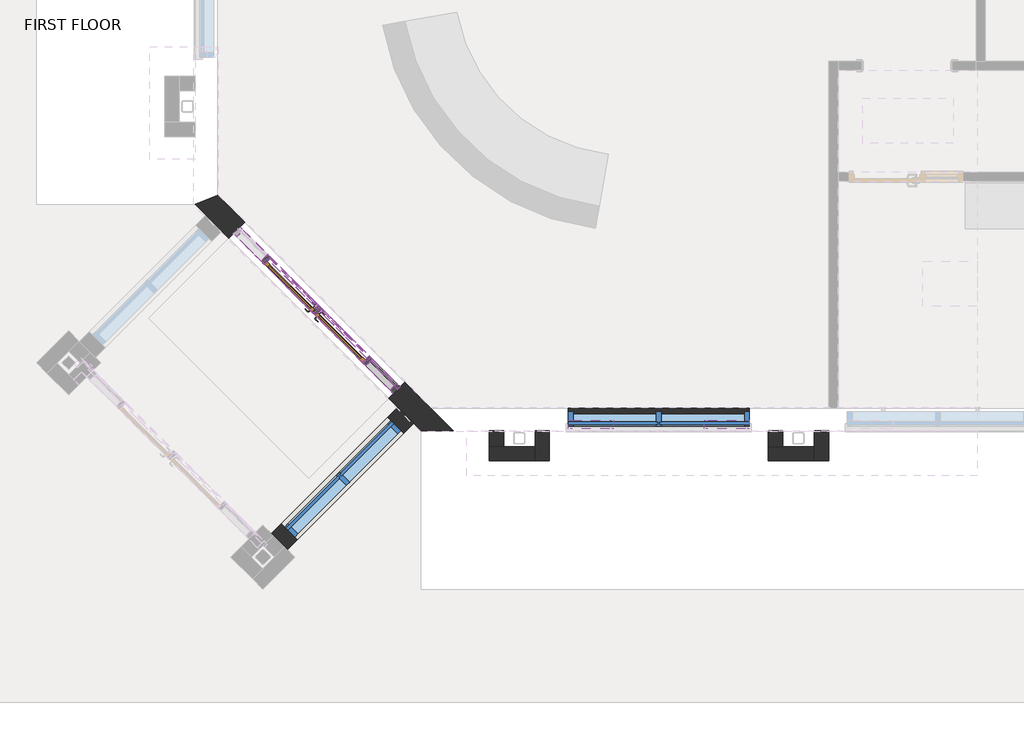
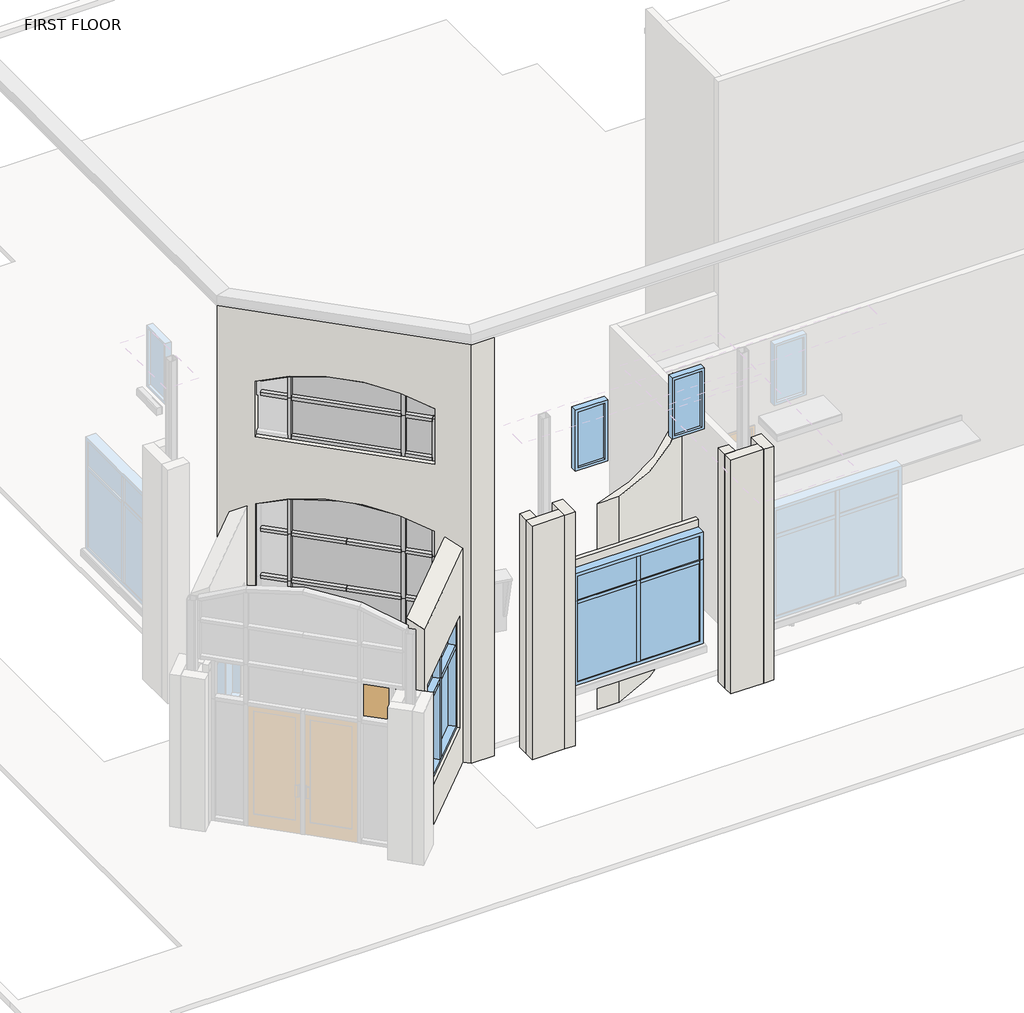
# One storey, part 2 of 7: 43 members, 11 plates, 10 walls, 4 windows, 2 doors.
"""IFC4 building model written with IfcOpenShell, lengths in millimetres."""

from ifc_helpers import new_model, si_unit, point, frame, frame_2d, origin, place, context, project, spatial, polyline, circle_curve, trimmed, segment, composite_curve, outline, extrude, faceted_brep, transform, mapped, element, save
from ifc_brep_helpers import plane_surface, cylinder_surface, revolved_surface, advanced_brep
from components import curtain_wall_store_front_single_med_stile_store_front_single_c6cdc8f1, curtain_wall_store_front_single_med_stile_store_front_single_1d4f68a2, member_1df11e17, member_33497832, member_f0fea5a5, member_5535eeb3, member_57980dff, member_ee409385, member_c7d2ba5d, member_96cc7568, member_ca079636, member_623bfa76, member_6e56d3c6, member_7b70a9c6, member_9ba9524c, member_016b66e3, member_fa7abc04, member_44ea0774, member_e557a406, member_f133ae23, member_3a04f99e, member_58a4a87b, member_93b63755, member_058a004c, member_fd47e183, member_da3023d3, member_091e92f8, member_4be7d09b, system_panel_glazed_7ef526e5, system_panel_glazed_cf9f2373, system_panel_glazed_ee5f99dd, system_panel_glazed_625fda9a, system_panel_glazed_8e084865, system_panel_glazed_9944f469, system_panel_glazed_894d5202, system_panel_glazed_82fe0f80, system_panel_glazed_30649ce8, system_panel_glazed_3c5eea1a, system_panel_glazed_65f6affc, aluminum_exterior_window_single_3885_e2dbf674, storefront_window_28fc684a, window_5003604b

model = new_model("IFC4")

# Units and contexts
model_context = context("Model", 3, world=origin())
ifc_project = project(units=[si_unit("LENGTHUNIT", "METRE", prefix="MILLI")], contexts=[model_context])

# Site, building, storey
site = spatial("IfcSite", under=ifc_project)
building = spatial("IfcBuilding", under=site)
storey = spatial("IfcBuildingStorey", under=building, Name="FIRST FLOOR", Elevation=30480.0)

# Doors
placement = place(None, origin())
curtain_wall_store_front_single_med_stile_store_front_single_shape = curtain_wall_store_front_single_med_stile_store_front_single_c6cdc8f1(model_context)
element("IfcDoor", 1, ObjectType="Curtain Wall-Store Front-Single Med Stile : Store Front Single Door", at=placement, inside=storey, context=model_context, shape_type="MappedRepresentation", body=[
    mapped(curtain_wall_store_front_single_med_stile_store_front_single_shape, transform((-14843.33754, -4975.3705256, 30480.0), x_axis=(0.707106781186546, -0.7071067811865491, 0.0), y_axis=(0.7071067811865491, 0.707106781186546, 0.0), z_axis=(0.0, 0.0, 1.0))),
])
curtain_wall_store_front_single_med_stile_store_front_single_2_shape = curtain_wall_store_front_single_med_stile_store_front_single_1d4f68a2(model_context)
element("IfcDoor", 2, ObjectType="Curtain Wall-Store Front-Single Med Stile : Store Front Single Door", at=placement, inside=storey, context=model_context, shape_type="MappedRepresentation", body=[
    mapped(curtain_wall_store_front_single_med_stile_store_front_single_2_shape, transform((-15525.8370052, -4292.8710604, 30480.0), x_axis=(-0.707106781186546, 0.7071067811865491, 0.0), y_axis=(-0.7071067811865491, -0.707106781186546, 0.0), z_axis=(0.0, 0.0, 1.0))),
])

# Members
member_shape = member_1df11e17(model_context)
element("IfcMember", 3, ObjectType="Rectangular Mullion : 2.5\" x 5\" rectangular", at=placement, inside=storey, context=model_context, shape_type="MappedRepresentation", body=[
    mapped(member_shape, transform((-15889.5373781, -3929.1706875, 32918.4), x_axis=(0.0, 0.0, 1.0), y_axis=(-0.707106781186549, -0.7071067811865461, 0.0), z_axis=(0.707106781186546, -0.7071067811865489, 0.0))),
])
element("IfcMember", 4, ObjectType="Rectangular Mullion : 2.5\" x 5\" rectangular", at=placement, inside=storey, context=model_context, shape_type="MappedRepresentation", body=[
    mapped(member_shape, transform((-14151.8578187, -5666.8502469, 32918.4), x_axis=(0.0, 0.0, 1.0), y_axis=(-0.7071067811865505, -0.7071067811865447, 0.0), z_axis=(0.7071067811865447, -0.7071067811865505, 0.0))),
])
element("IfcMember", 5, ObjectType="Rectangular Mullion : 2.5\" x 5\" rectangular", at=placement, inside=storey, context=model_context, shape_type="MappedRepresentation", body=[
    mapped(member_shape, transform((-14151.8578187, -5666.8502469, 34442.4), x_axis=(0.0, 0.0, 1.0), y_axis=(-0.7071067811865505, -0.7071067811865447, 0.0), z_axis=(0.7071067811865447, -0.7071067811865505, 0.0))),
])
element("IfcMember", 6, ObjectType="Rectangular Mullion : 2.5\" x 5\" rectangular", at=placement, inside=storey, context=model_context, shape_type="MappedRepresentation", body=[
    mapped(member_shape, transform((-15889.5373781, -3929.1706875, 34442.4), x_axis=(0.0, 0.0, 1.0), y_axis=(-0.70710678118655, -0.7071067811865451, 0.0), z_axis=(0.7071067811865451, -0.70710678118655, 0.0))),
])
element("IfcMember", 7, ObjectType="Rectangular Mullion : 2.5\" x 5\" rectangular", at=placement, inside=storey, context=model_context, shape_type="MappedRepresentation", body=[
    mapped(member_shape, transform((-14151.8578187, -5666.8502469, 33502.6), x_axis=(0.0, 0.0, 1.0), y_axis=(-0.7071067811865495, -0.7071067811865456, 0.0), z_axis=(0.7071067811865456, -0.7071067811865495, 0.0))),
])
element("IfcMember", 8, ObjectType="Rectangular Mullion : 2.5\" x 5\" rectangular", at=placement, inside=storey, context=model_context, shape_type="MappedRepresentation", body=[
    mapped(member_shape, transform((-15889.5373781, -3929.1706875, 33502.6), x_axis=(0.0, 0.0, 1.0), y_axis=(-0.707106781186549, -0.7071067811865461, 0.0), z_axis=(0.7071067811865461, -0.707106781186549, 0.0))),
])
element("IfcMember", 9, ObjectType="Rectangular Mullion : 2.5\" x 5\" rectangular", at=placement, inside=storey, context=model_context, shape_type="MappedRepresentation", body=[
    mapped(member_shape, transform((-14151.8578187, -5666.8502469, 37160.2), x_axis=(0.0, 0.0, 1.0), y_axis=(-0.7071067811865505, -0.7071067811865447, 0.0), z_axis=(0.7071067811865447, -0.7071067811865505, 0.0))),
])
element("IfcMember", 10, ObjectType="Rectangular Mullion : 2.5\" x 5\" rectangular", at=placement, inside=storey, context=model_context, shape_type="MappedRepresentation", body=[
    mapped(member_shape, transform((-15889.5373781, -3929.1706875, 37160.2), x_axis=(0.0, 0.0, 1.0), y_axis=(-0.7071067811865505, -0.7071067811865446, 0.0), z_axis=(0.7071067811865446, -0.7071067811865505, 0.0))),
])
member_2_shape = member_33497832(model_context)
element("IfcMember", 11, ObjectType="Rectangular Mullion : 2.5\" x 5\" rectangular", at=placement, inside=storey, context=model_context, shape_type="MappedRepresentation", body=[
    mapped(member_2_shape, transform((-15207.0379129, -4611.6701527, 32918.4), x_axis=(0.0, 0.0, 1.0), y_axis=(-0.7071067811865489, -0.7071067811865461, 0.0), z_axis=(0.7071067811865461, -0.7071067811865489, 0.0))),
])
element("IfcMember", 12, ObjectType="Rectangular Mullion : 2.5\" x 5\" rectangular", at=placement, inside=storey, context=model_context, shape_type="MappedRepresentation", body=[
    mapped(member_2_shape, transform((-14524.5384477, -5294.1696179, 32918.4), x_axis=(0.0, 0.0, 1.0), y_axis=(-0.7071067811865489, -0.7071067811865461, 0.0), z_axis=(0.7071067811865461, -0.7071067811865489, 0.0))),
])
member_3_shape = member_f0fea5a5(model_context)
element("IfcMember", 13, ObjectType="Rectangular Mullion : 2.5\" x 5\" rectangular", at=placement, inside=storey, context=model_context, shape_type="MappedRepresentation", body=[
    mapped(member_3_shape, transform((-14502.0878074, -5316.6202582, 30480.0), x_axis=(0.707106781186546, -0.7071067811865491, 0.0), y_axis=(-0.7071067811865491, -0.707106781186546, 0.0), z_axis=(0.0, 0.0, -1.0))),
])
element("IfcMember", 14, ObjectType="Rectangular Mullion : 2.5\" x 5\" rectangular", at=placement, inside=storey, context=model_context, shape_type="MappedRepresentation", body=[
    mapped(member_3_shape, transform((-15867.0867378, -3951.6213278, 30480.0), x_axis=(0.707106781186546, -0.7071067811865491, 0.0), y_axis=(-0.7071067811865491, -0.707106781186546, 0.0), z_axis=(0.0, 0.0, -1.0))),
])
member_4_shape = member_5535eeb3(model_context)
element("IfcMember", 15, ObjectType="Rectangular Mullion : 2.5\" x 5\" rectangular", at=placement, inside=storey, context=model_context, shape_type="MappedRepresentation", body=[
    mapped(member_4_shape, transform((-14479.6371671, -5339.0708985, 30480.0), x_axis=(0.0, 0.0, -1.0), y_axis=(-0.7071067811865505, -0.7071067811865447, 0.0), z_axis=(-0.7071067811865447, 0.7071067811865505, 0.0))),
])
element("IfcMember", 16, ObjectType="Rectangular Mullion : 2.5\" x 5\" rectangular", at=placement, inside=storey, context=model_context, shape_type="MappedRepresentation", body=[
    mapped(member_4_shape, transform((-14479.6371671, -5339.0708985, 36347.4), x_axis=(0.0, 0.0, -1.0), y_axis=(-0.7071067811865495, -0.7071067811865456, 0.0), z_axis=(-0.7071067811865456, 0.7071067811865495, 0.0))),
])
member_5_shape = member_57980dff(model_context)
element("IfcMember", 17, ObjectType="Rectangular Mullion : 2.5\" x 5\" rectangular", at=placement, inside=storey, context=model_context, shape_type="MappedRepresentation", body=[
    mapped(member_5_shape, transform((-15184.5872726, -4634.120793, 30480.0), x_axis=(0.707106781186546, -0.7071067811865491, 0.0), y_axis=(-0.7071067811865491, -0.707106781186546, 0.0), z_axis=(0.0, 0.0, -1.0))),
])
member_6_shape = member_ee409385(model_context)
element("IfcMember", 18, ObjectType="Rectangular Mullion : 2.5\" x 5\" rectangular", at=placement, inside=storey, context=model_context, shape_type="MappedRepresentation", body=[
    mapped(member_6_shape, transform((-14106.9565381, -5711.7515275, 30480.0), x_axis=(0.707106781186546, -0.7071067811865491, 0.0), y_axis=(-0.7071067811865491, -0.707106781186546, 0.0), z_axis=(0.0, 0.0, -1.0))),
])
member_7_shape = member_c7d2ba5d(model_context)
element("IfcMember", 19, ObjectType="Rectangular Mullion : 2.5\" x 5\" rectangular", at=placement, inside=storey, context=model_context, shape_type="MappedRepresentation", body=[
    mapped(member_7_shape, transform((-15184.5872726, -4634.120793, 34442.4), x_axis=(0.0, 0.0, 1.0), y_axis=(-0.7071067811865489, -0.7071067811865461, 0.0), z_axis=(0.7071067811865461, -0.7071067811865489, 0.0))),
])
element("IfcMember", 20, ObjectType="Rectangular Mullion : 2.5\" x 5\" rectangular", at=placement, inside=storey, context=model_context, shape_type="MappedRepresentation", body=[
    mapped(member_7_shape, transform((-15184.5872726, -4634.120793, 33502.6), x_axis=(0.0, 0.0, 1.0), y_axis=(-0.7071067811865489, -0.7071067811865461, 0.0), z_axis=(0.7071067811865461, -0.7071067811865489, 0.0))),
])
element("IfcMember", 21, ObjectType="Rectangular Mullion : 2.5\" x 5\" rectangular", at=placement, inside=storey, context=model_context, shape_type="MappedRepresentation", body=[
    mapped(member_7_shape, transform((-14524.5384477, -5294.1696179, 34442.4), x_axis=(0.0, 0.0, 1.0), y_axis=(-0.7071067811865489, -0.7071067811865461, 0.0), z_axis=(0.7071067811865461, -0.7071067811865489, 0.0))),
])
element("IfcMember", 22, ObjectType="Rectangular Mullion : 2.5\" x 5\" rectangular", at=placement, inside=storey, context=model_context, shape_type="MappedRepresentation", body=[
    mapped(member_7_shape, transform((-14524.5384477, -5294.1696179, 33502.6), x_axis=(0.0, 0.0, 1.0), y_axis=(-0.7071067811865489, -0.7071067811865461, 0.0), z_axis=(0.7071067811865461, -0.7071067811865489, 0.0))),
])
member_8_shape = member_96cc7568(model_context)
element("IfcMember", 23, ObjectType="Rectangular Mullion : 2.5\" x 5\" rectangular", at=placement, inside=storey, context=model_context, shape_type="MappedRepresentation", body=[
    mapped(member_8_shape, transform((-14502.0878074, -5316.6202582, 32918.4), x_axis=(0.707106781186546, -0.7071067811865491, 0.0), y_axis=(-0.7071067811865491, -0.707106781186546, 0.0), z_axis=(0.0, 0.0, -1.0))),
])
element("IfcMember", 24, ObjectType="Rectangular Mullion : 2.5\" x 5\" rectangular", at=placement, inside=storey, context=model_context, shape_type="MappedRepresentation", body=[
    mapped(member_8_shape, transform((-15867.0867378, -3951.6213278, 32918.4), x_axis=(0.707106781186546, -0.7071067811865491, 0.0), y_axis=(-0.7071067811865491, -0.707106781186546, 0.0), z_axis=(0.0, 0.0, -1.0))),
])
member_9_shape = member_ca079636(model_context)
element("IfcMember", 25, ObjectType="Rectangular Mullion : 2.5\" x 5\" rectangular", at=placement, inside=storey, context=model_context, shape_type="MappedRepresentation", body=[
    mapped(member_9_shape, transform((-14502.0878074, -5316.6202582, 33502.6), x_axis=(0.707106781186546, -0.7071067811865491, 0.0), y_axis=(-0.7071067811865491, -0.707106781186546, 0.0), z_axis=(0.0, 0.0, -1.0))),
])
element("IfcMember", 26, ObjectType="Rectangular Mullion : 2.5\" x 5\" rectangular", at=placement, inside=storey, context=model_context, shape_type="MappedRepresentation", body=[
    mapped(member_9_shape, transform((-15867.0867378, -3951.6213278, 33502.6), x_axis=(0.707106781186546, -0.7071067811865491, 0.0), y_axis=(-0.7071067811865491, -0.707106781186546, 0.0), z_axis=(0.0, 0.0, -1.0))),
])
member_10_shape = member_623bfa76(model_context)
element("IfcMember", 27, ObjectType="Rectangular Mullion : 2.5\" x 5\" rectangular", at=placement, inside=storey, context=model_context, shape_type="MappedRepresentation", body=[
    mapped(member_10_shape, transform((-14106.9565381, -5711.7515275, 32918.4), x_axis=(0.707106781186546, -0.7071067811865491, 0.0), y_axis=(-0.7071067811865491, -0.707106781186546, 0.0), z_axis=(0.0, 0.0, -1.0))),
])
member_11_shape = member_6e56d3c6(model_context)
element("IfcMember", 28, ObjectType="Rectangular Mullion : 2.5\" x 5\" rectangular", at=placement, inside=storey, context=model_context, shape_type="MappedRepresentation", body=[
    mapped(member_11_shape, transform((-14502.0878074, -5316.6202582, 34442.4), x_axis=(0.707106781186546, -0.7071067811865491, 0.0), y_axis=(-0.7071067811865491, -0.707106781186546, 0.0), z_axis=(0.0, 0.0, -1.0))),
])
member_12_shape = member_7b70a9c6(model_context)
element("IfcMember", 29, ObjectType="Rectangular Mullion : 2.5\" x 5\" rectangular", at=placement, inside=storey, context=model_context, shape_type="MappedRepresentation", body=[
    mapped(member_12_shape, transform((-15867.0867378, -3951.6213278, 34442.4), x_axis=(0.707106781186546, -0.7071067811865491, 0.0), y_axis=(-0.7071067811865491, -0.707106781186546, 0.0), z_axis=(0.0, 0.0, -1.0))),
])
member_13_shape = member_9ba9524c(model_context)
element("IfcMember", 30, ObjectType="Rectangular Mullion : 2.5\" x 5\" rectangular", at=placement, inside=storey, context=model_context, shape_type="MappedRepresentation", body=[
    mapped(member_13_shape, transform((-15184.5872726, -4634.120793, 35335.2420044), x_axis=(-0.0008797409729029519, 0.0008797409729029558, 0.9999992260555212), y_axis=(-0.7071067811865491, -0.7071067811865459, 0.0), z_axis=(0.7071062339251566, -0.7071062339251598, 0.0012441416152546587))),
])
member_14_shape = member_016b66e3(model_context)
element("IfcMember", 31, ObjectType="Rectangular Mullion : 2.5\" x 5\" rectangular", at=placement, inside=storey, context=model_context, shape_type="MappedRepresentation", body=[
    mapped(member_14_shape, transform((-15867.0867378, -3951.6213278, 35206.676796), x_axis=(-0.18424092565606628, 0.1842409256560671, 0.9654587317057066), y_axis=(-0.7071067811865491, -0.707106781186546, 0.0), z_axis=(0.6826824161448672, -0.6826824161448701, 0.2605560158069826))),
])
member_15_shape = member_fa7abc04(model_context)
element("IfcMember", 32, ObjectType="Rectangular Mullion : 2.5\" x 5\" rectangular", at=placement, inside=storey, context=model_context, shape_type="MappedRepresentation", body=[
    mapped(member_15_shape, transform((-14502.0878074, -5316.6202582, 35209.163552), x_axis=(0.1824814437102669, -0.1824814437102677, 0.9661268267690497), y_axis=(-0.7071067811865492, -0.707106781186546, 0.0), z_axis=(0.6831548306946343, -0.6831548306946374, -0.2580677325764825))),
])
member_16_shape = member_44ea0774(model_context)
element("IfcMember", 33, ObjectType="Rectangular Mullion : 2.5\" x 5\" rectangular", at=placement, inside=storey, context=model_context, shape_type="MappedRepresentation", body=[
    mapped(member_16_shape, transform((-14106.9565381, -5711.7515275, 35011.0242412), x_axis=(0.2886379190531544, -0.28863791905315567, 0.9128944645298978), y_axis=(-0.7071067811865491, -0.707106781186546, 0.0), z_axis=(0.6455138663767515, -0.6455138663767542, -0.4081956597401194))),
])
member_17_shape = member_e557a406(model_context)
element("IfcMember", 34, ObjectType="Rectangular Mullion : 2.5\" x 5\" rectangular", at=placement, inside=storey, context=model_context, shape_type="MappedRepresentation", body=[
    mapped(member_17_shape, transform((-14106.9565381, -5711.7515275, 33502.6), x_axis=(0.707106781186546, -0.7071067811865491, 0.0), y_axis=(-0.7071067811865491, -0.707106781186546, 0.0), z_axis=(0.0, 0.0, -1.0))),
])
member_18_shape = member_f133ae23(model_context)
element("IfcMember", 35, ObjectType="Rectangular Mullion : 2.5\" x 5\" rectangular", at=placement, inside=storey, context=model_context, shape_type="MappedRepresentation", body=[
    mapped(member_18_shape, transform((-14106.9565381, -5711.7515275, 34442.4), x_axis=(0.707106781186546, -0.7071067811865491, 0.0), y_axis=(-0.7071067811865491, -0.707106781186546, 0.0), z_axis=(0.0, 0.0, -1.0))),
])
member_19_shape = member_3a04f99e(model_context)
element("IfcMember", 36, ObjectType="Rectangular Mullion : 2.5\" x 5\" rectangular", at=placement, inside=storey, context=model_context, shape_type="MappedRepresentation", body=[
    mapped(member_19_shape, transform((-15844.6360975, -3974.0719681, 36347.4), x_axis=(0.0, 0.0, -1.0), y_axis=(-0.7071067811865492, -0.7071067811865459, 0.0), z_axis=(-0.7071067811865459, 0.7071067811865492, 0.0))),
])
member_20_shape = member_58a4a87b(model_context)
element("IfcMember", 37, ObjectType="Rectangular Mullion : 2.5\" x 5\" rectangular", at=placement, inside=storey, context=model_context, shape_type="MappedRepresentation", body=[
    mapped(member_20_shape, transform((-15867.0867378, -3951.6213278, 36347.4), x_axis=(0.7071067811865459, -0.7071067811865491, 0.0), y_axis=(-0.7071067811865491, -0.7071067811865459, 0.0), z_axis=(0.0, 0.0, -1.0))),
])
element("IfcMember", 38, ObjectType="Rectangular Mullion : 2.5\" x 5\" rectangular", at=placement, inside=storey, context=model_context, shape_type="MappedRepresentation", body=[
    mapped(member_20_shape, transform((-14502.0878074, -5316.6202582, 36347.4), x_axis=(0.7071067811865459, -0.7071067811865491, 0.0), y_axis=(-0.7071067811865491, -0.7071067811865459, 0.0), z_axis=(0.0, 0.0, -1.0))),
])
member_21_shape = member_93b63755(model_context)
element("IfcMember", 39, ObjectType="Rectangular Mullion : 2.5\" x 5\" rectangular", at=placement, inside=storey, context=model_context, shape_type="MappedRepresentation", body=[
    mapped(member_21_shape, transform((-15867.0867378, -3951.6213278, 37160.2), x_axis=(0.7071067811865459, -0.7071067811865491, 0.0), y_axis=(-0.7071067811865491, -0.7071067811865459, 0.0), z_axis=(0.0, 0.0, -1.0))),
])
member_22_shape = member_058a004c(model_context)
element("IfcMember", 40, ObjectType="Rectangular Mullion : 2.5\" x 5\" rectangular", at=placement, inside=storey, context=model_context, shape_type="MappedRepresentation", body=[
    mapped(member_22_shape, transform((-14502.0878074, -5316.6202582, 37160.2), x_axis=(0.7071067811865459, -0.7071067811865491, 0.0), y_axis=(-0.7071067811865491, -0.7071067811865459, 0.0), z_axis=(0.0, 0.0, -1.0))),
])
member_23_shape = member_fd47e183(model_context)
element("IfcMember", 41, ObjectType="Rectangular Mullion : 2.5\" x 5\" rectangular", at=placement, inside=storey, context=model_context, shape_type="MappedRepresentation", body=[
    mapped(member_23_shape, transform((-14524.5384477, -5294.1696179, 37160.2), x_axis=(0.0, 0.0, 1.0), y_axis=(-0.7071067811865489, -0.7071067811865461, 0.0), z_axis=(0.7071067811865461, -0.7071067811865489, 0.0))),
])
member_24_shape = member_da3023d3(model_context)
element("IfcMember", 42, ObjectType="Rectangular Mullion : 2.5\" x 5\" rectangular", at=placement, inside=storey, context=model_context, shape_type="MappedRepresentation", body=[
    mapped(member_24_shape, transform((-14106.9565381, -5711.7515275, 37458.6082327), x_axis=(0.28863791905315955, -0.2886379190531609, 0.9128944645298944), y_axis=(-0.7071067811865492, -0.7071067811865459, 0.0), z_axis=(0.6455138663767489, -0.645513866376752, -0.4081956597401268))),
])
member_25_shape = member_091e92f8(model_context)
element("IfcMember", 43, ObjectType="Rectangular Mullion : 2.5\" x 5\" rectangular", at=placement, inside=storey, context=model_context, shape_type="MappedRepresentation", body=[
    mapped(member_25_shape, transform((-14106.9565381, -5711.7515275, 36347.4), x_axis=(0.7071067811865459, -0.7071067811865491, 0.0), y_axis=(-0.7071067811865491, -0.7071067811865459, 0.0), z_axis=(0.0, 0.0, -1.0))),
])
element("IfcMember", 44, ObjectType="Rectangular Mullion : 2.5\" x 5\" rectangular", at=placement, inside=storey, context=model_context, shape_type="MappedRepresentation", body=[
    mapped(member_14_shape, transform((-15867.0867378, -3951.6213278, 37654.2607875), x_axis=(-0.18424092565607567, 0.18424092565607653, 0.9654587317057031), y_axis=(-0.7071067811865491, -0.7071067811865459, 0.0), z_axis=(0.6826824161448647, -0.6826824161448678, 0.26055601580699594))),
])
member_26_shape = member_4be7d09b(model_context)
element("IfcMember", 45, ObjectType="Rectangular Mullion : 2.5\" x 5\" rectangular", at=placement, inside=storey, context=model_context, shape_type="MappedRepresentation", body=[
    mapped(member_26_shape, transform((-14502.0878074, -5316.6202582, 37656.7475435), x_axis=(0.1824814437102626, -0.18248144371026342, 0.9661268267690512), y_axis=(-0.707106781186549, -0.7071067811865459, 0.0), z_axis=(0.6831548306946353, -0.6831548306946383, -0.2580677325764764))),
])

# Plates
system_panel_glazed_shape = system_panel_glazed_7ef526e5(model_context)
element("IfcPlate", 46, ObjectType="System Panel : Glazed", at=placement, inside=storey, context=model_context, shape_type="MappedRepresentation", body=[
    mapped(system_panel_glazed_shape, transform((-14315.7474929, -5502.9605727, 30543.5), x_axis=(0.707106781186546, -0.7071067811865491, 0.0), y_axis=(0.7071067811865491, 0.707106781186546, 0.0), z_axis=(0.0, 0.0, 1.0))),
])
system_panel_glazed_2_shape = system_panel_glazed_cf9f2373(model_context)
element("IfcPlate", 47, ObjectType="System Panel : Glazed", at=placement, inside=storey, context=model_context, shape_type="MappedRepresentation", body=[
    mapped(system_panel_glazed_2_shape, transform((-14315.7474929, -5502.9605727, 32950.15), x_axis=(0.707106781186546, -0.7071067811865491, 0.0), y_axis=(0.7071067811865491, 0.707106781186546, 0.0), z_axis=(0.0, 0.0, 1.0))),
])
system_panel_glazed_3_shape = system_panel_glazed_ee5f99dd(model_context)
element("IfcPlate", 48, ObjectType="System Panel : Glazed", at=placement, inside=storey, context=model_context, shape_type="MappedRepresentation", body=[
    mapped(system_panel_glazed_3_shape, transform((-15184.5872726, -4634.120793, 32950.15), x_axis=(0.707106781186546, -0.7071067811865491, 0.0), y_axis=(0.7071067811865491, 0.707106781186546, 0.0), z_axis=(0.0, 0.0, 1.0))),
])
system_panel_glazed_4_shape = system_panel_glazed_625fda9a(model_context)
element("IfcPlate", 49, ObjectType="System Panel : Glazed", at=placement, inside=storey, context=model_context, shape_type="MappedRepresentation", body=[
    mapped(system_panel_glazed_4_shape, transform((-14315.7474929, -5502.9605727, 33534.35), x_axis=(0.707106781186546, -0.7071067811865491, 0.0), y_axis=(0.7071067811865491, 0.707106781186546, 0.0), z_axis=(0.0, 0.0, 1.0))),
])
system_panel_glazed_5_shape = system_panel_glazed_8e084865(model_context)
element("IfcPlate", 50, ObjectType="System Panel : Glazed", at=placement, inside=storey, context=model_context, shape_type="MappedRepresentation", body=[
    mapped(system_panel_glazed_5_shape, transform((-15184.5872726, -4634.120793, 33534.35), x_axis=(0.707106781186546, -0.7071067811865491, 0.0), y_axis=(0.7071067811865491, 0.707106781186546, 0.0), z_axis=(0.0, 0.0, 1.0))),
])
system_panel_glazed_6_shape = system_panel_glazed_9944f469(model_context)
element("IfcPlate", 51, ObjectType="System Panel : Glazed", at=placement, inside=storey, context=model_context, shape_type="MappedRepresentation", body=[
    mapped(system_panel_glazed_6_shape, transform((-15184.5872726, -4634.120793, 34474.15), x_axis=(0.707106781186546, -0.7071067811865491, 0.0), y_axis=(0.7071067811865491, 0.707106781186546, 0.0), z_axis=(0.0, 0.0, 1.0))),
])
system_panel_glazed_7_shape = system_panel_glazed_894d5202(model_context)
element("IfcPlate", 52, ObjectType="System Panel : Glazed", at=placement, inside=storey, context=model_context, shape_type="MappedRepresentation", body=[
    mapped(system_panel_glazed_7_shape, transform((-14315.7474929, -5502.9605727, 34474.15), x_axis=(0.707106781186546, -0.7071067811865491, 0.0), y_axis=(0.7071067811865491, 0.707106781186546, 0.0), z_axis=(0.0, 0.0, 1.0))),
])
system_panel_glazed_8_shape = system_panel_glazed_82fe0f80(model_context)
element("IfcPlate", 53, ObjectType="System Panel : Glazed", at=placement, inside=storey, context=model_context, shape_type="MappedRepresentation", body=[
    mapped(system_panel_glazed_8_shape, transform((-14315.7474929, -5502.9605727, 36410.9), x_axis=(0.7071067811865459, -0.7071067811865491, 0.0), y_axis=(0.7071067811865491, 0.7071067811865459, 0.0), z_axis=(0.0, 0.0, 1.0))),
])
system_panel_glazed_9_shape = system_panel_glazed_30649ce8(model_context)
element("IfcPlate", 54, ObjectType="System Panel : Glazed", at=placement, inside=storey, context=model_context, shape_type="MappedRepresentation", body=[
    mapped(system_panel_glazed_9_shape, transform((-15184.5872726, -4634.120793, 36410.9), x_axis=(0.7071067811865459, -0.7071067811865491, 0.0), y_axis=(0.7071067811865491, 0.7071067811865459, 0.0), z_axis=(0.0, 0.0, 1.0))),
])
system_panel_glazed_10_shape = system_panel_glazed_3c5eea1a(model_context)
element("IfcPlate", 55, ObjectType="System Panel : Glazed", at=placement, inside=storey, context=model_context, shape_type="MappedRepresentation", body=[
    mapped(system_panel_glazed_10_shape, transform((-15184.5872726, -4634.120793, 37191.95), x_axis=(0.7071067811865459, -0.7071067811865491, 0.0), y_axis=(0.7071067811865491, 0.7071067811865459, 0.0), z_axis=(0.0, 0.0, 1.0))),
])
system_panel_glazed_11_shape = system_panel_glazed_65f6affc(model_context)
element("IfcPlate", 56, ObjectType="System Panel : Glazed", at=placement, inside=storey, context=model_context, shape_type="MappedRepresentation", body=[
    mapped(system_panel_glazed_11_shape, transform((-14293.2968526, -5525.411213, 37191.95), x_axis=(0.7071067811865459, -0.7071067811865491, 0.0), y_axis=(0.7071067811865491, 0.7071067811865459, 0.0), z_axis=(0.0, 0.0, 1.0))),
])

# Walls
element("IfcWall", 57, ObjectType="Exterior - Brick on Mtl. Stud", at=placement, inside=storey, context=model_context, shape_type="AdvancedBrep", body=[
    advanced_brep(
    [(-16154.4549337, -3448.726985, 30480.0), (-16519.635253, -3083.5466657, 30480.0), (-16519.635253, -3083.5466657, 38890.816921), (-13650.1829592, -5952.9989595, 38890.816921), (-13647.0079592, -5956.1739595, 38899.5401618), (-13647.0079592, -5956.1739595, 39014.4), (-13345.3829592, -6257.7989595, 39014.4), (-13345.3829592, -6257.7989595, 30480.0), (-13999.1934646, -5603.988454, 30480.0), (-13999.1934646, -5603.988454, 35011.0242412), (-16154.4549337, -3448.726985, 35006.8677208), (-16154.4549337, -3448.726985, 37454.4517124), (-16154.4549337, -3448.726985, 36347.4), (-13999.1934646, -5603.988454, 36347.4), (-13999.1934646, -5603.988454, 37458.6082327), (-13776.435253, -6257.7989595, 39014.4), (-16824.435253, -3209.7989595, 39014.4), (-16824.435253, -3209.7989595, 30480.0), (-16680.7511551, -3353.4830574, 30480.0), (-16465.2250082, -3569.0092043, 30480.0), (-16369.9810806, -3664.2531319, 30480.0), (-16369.9810806, -3664.2531319, 35006.8677208), (-14214.7196115, -5819.514601, 35011.0242412), (-14214.7196115, -5819.514601, 30480.0), (-14092.9892813, -5941.2449312, 30480.0), (-13877.4631344, -6156.7710781, 30480.0), (-13776.435253, -6257.7989595, 30480.0), (-16369.9810806, -3664.2531319, 36347.4), (-16369.9810806, -3664.2531319, 37454.4517124), (-14214.7196115, -5819.514601, 37458.6082327), (-14214.7196115, -5819.514601, 36347.4), (-13651.4980873, -5956.1739595, 39014.4), (-16522.810253, -3084.8617937, 39014.4), (-16522.810253, -3084.8617937, 38899.5401618), (-13651.4980873, -5956.1739595, 38899.5401618)],
    [
        (0, 1),
        (1, 2),
        (2, 3),
        (3, 4),
        (4, 5),
        (5, 6),
        (6, 7),
        (7, 8),
        (8, 9),
        (9, 10, circle_curve(frame((-15073.5496635, -4529.6322552, 31613.0859867), z_axis=(-0.7071067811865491, -0.707106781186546, 0.0), x_axis=(-0.707106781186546, 0.7071067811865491, 0.0)), 3722.1588985)),
        (10, 0),
        (11, 12),
        (12, 13),
        (13, 14),
        (14, 11, circle_curve(frame((-15073.5496635, -4529.6322552, 34060.6699782), z_axis=(-0.7071067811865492, -0.7071067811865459, 0.0), x_axis=(-0.7071067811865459, 0.7071067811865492, 0.0)), 3722.1588985)),
        (15, 16),
        (16, 17),
        (17, 18),
        (18, 19),
        (19, 20),
        (20, 21),
        (21, 22, circle_curve(frame((-15289.0758104, -4745.1584021, 31613.0859867), z_axis=(0.7071067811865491, 0.707106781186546, 0.0), x_axis=(-0.707106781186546, 0.7071067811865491, 0.0)), 3722.1588985)),
        (22, 23),
        (23, 24),
        (24, 25),
        (25, 26),
        (26, 15),
        (27, 28),
        (28, 29, circle_curve(frame((-15289.0758104, -4745.1584021, 34060.6699782), z_axis=(0.7071067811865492, 0.7071067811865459, 0.0), x_axis=(-0.7071067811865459, 0.7071067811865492, 0.0)), 3722.1588985)),
        (29, 30),
        (30, 27),
        (17, 1),
        (0, 20),
        (7, 26),
        (23, 8),
        (15, 6),
        (5, 31),
        (31, 32),
        (32, 16),
        (10, 21),
        (22, 9),
        (32, 33),
        (33, 2),
        (27, 12),
        (11, 28),
        (14, 29),
        (13, 30),
        (4, 34),
        (34, 31),
        (3, 34),
        (34, 33),
    ],
    [
        plane_surface(frame((-11763.6128698, -7839.5690489, 30480.0), z_axis=(0.707106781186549, 0.7071067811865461, 0.0), x_axis=(-0.7071067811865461, 0.707106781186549, 0.0))),
        plane_surface(frame((-11979.1390167, -8055.0951958, 30480.0), z_axis=(-0.707106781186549, -0.7071067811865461, 0.0), x_axis=(0.7071067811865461, -0.707106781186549, 0.0))),
        plane_surface(frame((-13605.5460327, -5997.635886, 30480.0), z_axis=(0.0, 0.0, -1.0000000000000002), x_axis=(-0.7071067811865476, -0.7071067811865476, 0.0))),
        plane_surface(frame((-16564.2721796, -3038.9097391, 39014.4), z_axis=(0.0, 0.0, 1.0), x_axis=(-0.7071067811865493, -0.7071067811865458, 0.0))),
        plane_surface(frame((-16046.6918602, -3340.9639115, 30480.0), z_axis=(0.7071067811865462, -0.7071067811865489, 0.0), x_axis=(-0.7071067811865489, -0.7071067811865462, 0.0))),
        plane_surface(frame((-13891.4303912, -5496.2253806, 35011.0242412), z_axis=(-0.7071067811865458, 0.7071067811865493, 0.0), x_axis=(-0.7071067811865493, -0.7071067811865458, 0.0))),
        revolved_surface(polyline([(-17705.513461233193, -1897.6684573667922, 31613.0859867), (-17921.039608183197, -2113.1946043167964, 31613.0859867)]), (-15172.3324808, -4628.4150725, 31613.0859867), (0.7071067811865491, 0.707106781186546, 0.0)),
        plane_surface(frame((-13605.5460327, -6257.7989595, 30480.0), z_axis=(0.0, -1.0, 0.0), x_axis=(1.0, 0.0, 0.0))),
        plane_surface(frame((-16519.635253, -3083.5466657, 30480.0), z_axis=(-0.3826834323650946, 0.9238795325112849, 0.0), x_axis=(-0.9238795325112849, -0.3826834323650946, 0.0))),
        plane_surface(frame((-16046.6918602, -3340.9639115, 36347.4), z_axis=(0.7071067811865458, -0.7071067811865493, 0.0), x_axis=(-0.7071067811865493, -0.7071067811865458, 0.0))),
        revolved_surface(polyline([(-17705.513461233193, -1897.6684573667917, 34060.6699782), (-17921.039608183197, -2113.194604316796, 34060.6699782)]), (-15172.3324808, -4628.4150725, 34060.6699782), (0.7071067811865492, 0.7071067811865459, 0.0)),
        plane_surface(frame((-13891.4303912, -5496.2253806, 37458.6082327), z_axis=(-0.7071067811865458, 0.7071067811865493, 0.0), x_axis=(-0.7071067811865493, -0.7071067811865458, 0.0))),
        plane_surface(frame((-13891.4303912, -5496.2253806, 36347.4), z_axis=(0.0, 0.0, 1.0), x_axis=(-0.7071067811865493, -0.7071067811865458, 0.0))),
        plane_surface(frame((-365.235253, -5956.1739595, 39019.2285111), z_axis=(0.0, 1.0, 0.0), x_axis=(-1.0, 0.0, 0.0))),
        plane_surface(frame((-365.235253, -5956.1739595, 38899.5401618), z_axis=(0.0, 0.9396926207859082, 0.3420201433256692), x_axis=(-1.0, 0.0, 0.0))),
        plane_surface(frame((-13651.4980873, -5956.1739595, 39019.2285111), z_axis=(0.7071067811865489, 0.7071067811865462, 0.0), x_axis=(-0.7071067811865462, 0.7071067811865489, 0.0))),
        plane_surface(frame((-13651.4980873, -5956.1739595, 38899.5401618), z_axis=(0.6644630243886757, 0.6644630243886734, 0.3420201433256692), x_axis=(-0.7071067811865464, 0.7071067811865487, 0.0))),
    ],
    [
        (0, [[1, 2, 3, 4, 5, 6, 7, 8, 9, 10, 11], [12, 13, 14, 15]]),
        (1, [[16, 17, 18, 19, 20, 21, 22, 23, 24, 25, 26, 27], [28, 29, 30, 31]]),
        (2, [[32, -1, 33, -20, -19, -18]]),
        (2, [[-8, 34, -26, -25, -24, 35]]),
        (3, [[-16, 36, -6, 37, 38, 39]]),
        (4, [[-11, 40, -21, -33]]),
        (5, [[-9, -35, -23, 41]]),
        (6, [[-41, -22, -40, -10]]),
        (7, [[-7, -36, -27, -34]]),
        (8, [[-32, -17, -39, 42, 43, -2]]),
        (9, [[44, -12, 45, -28]]),
        (10, [[-45, -15, 46, -29]]),
        (11, [[-46, -14, 47, -30]]),
        (12, [[-44, -31, -47, -13]]),
        (13, [[48, 49, -37, -5]]),
        (14, [[50, -48, -4]]),
        (15, [[51, -42, -38, -49]]),
        (16, [[-51, -50, -3, -43]]),
    ],
),
])
element("IfcWall", 58, ObjectType="Exterior - Brick on Mtl. Stud", at=placement, inside=storey, context=model_context, shape_type="AdvancedBrep", body=[
    advanced_brep(
    [(-15580.0108406, -7859.3187843, 30480.0), (-13877.4631344, -6156.7710781, 30480.0), (-13877.4631344, -6156.7710781, 34754.6088931), (-15580.0108406, -7859.3187843, 34754.6088931), (-14010.3164978, -6289.6244415, 33528.0), (-14010.3164978, -6289.6244415, 31292.8), (-15447.1574772, -7726.4654209, 31292.8), (-15447.1574772, -7726.4654209, 33528.0), (-15795.5369875, -7643.7926374, 30480.0), (-15795.5369875, -7643.7926374, 34928.688631), (-14092.9892813, -5941.2449312, 34928.688631), (-14092.9892813, -5941.2449312, 30480.0), (-14225.8426447, -6074.0982946, 33528.0), (-15662.6836241, -7510.939274, 33528.0), (-15662.6836241, -7510.939274, 31292.8), (-14225.8426447, -6074.0982946, 31292.8)],
    [
        (0, 1),
        (1, 2),
        (2, 3),
        (3, 0),
        (4, 5),
        (5, 6),
        (6, 7),
        (7, 4),
        (8, 9),
        (9, 10),
        (10, 11),
        (11, 8),
        (12, 13),
        (13, 14),
        (14, 15),
        (15, 12),
        (0, 8),
        (11, 1),
        (10, 2, circle_curve(frame((-15289.0758104, -4745.1584021, 31613.0859867), z_axis=(0.707106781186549, 0.7071067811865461, 0.0), x_axis=(0.7071067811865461, -0.707106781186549, 0.0)), 3722.1588985)),
        (3, 9, circle_curve(frame((-16991.6235166, -6447.7061083, 31613.0859867), z_axis=(-0.707106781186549, -0.7071067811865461, 0.0), x_axis=(0.7071067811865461, -0.707106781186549, 0.0)), 3722.1588985)),
        (4, 12),
        (15, 5),
        (14, 6),
        (13, 7),
    ],
    [
        plane_surface(frame((-15580.0108406, -7859.3187843, 30480.0), z_axis=(0.7071067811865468, -0.7071067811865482, 0.0), x_axis=(0.7071067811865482, 0.7071067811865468, 0.0))),
        plane_surface(frame((-15795.5369875, -7643.7926374, 30480.0), z_axis=(-0.7071067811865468, 0.7071067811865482, 0.0), x_axis=(-0.7071067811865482, -0.7071067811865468, 0.0))),
        plane_surface(frame((-15648.4852935, -7927.7932372, 30480.0), z_axis=(0.0, 0.0, -1.0), x_axis=(-0.7071067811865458, 0.7071067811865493, 0.0))),
        plane_surface(frame((-15278.1167898, -4756.1174227, 30114.24), z_axis=(0.7071067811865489, 0.7071067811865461, 0.0), x_axis=(-0.7071067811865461, 0.7071067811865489, 0.0))),
        plane_surface(frame((-15766.3511551, -7672.9784698, 30480.0), z_axis=(-0.7071067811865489, -0.7071067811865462, 0.0), x_axis=(-0.7071067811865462, 0.7071067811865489, 0.0))),
        cylinder_surface(frame((-15289.0758104, -4745.1584021, 31613.0859867), z_axis=(0.707106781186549, 0.7071067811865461, 0.0), x_axis=(0.7071067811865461, -0.707106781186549, 0.0)), 3722.1588985),
        plane_surface(frame((-14010.3164978, -6289.6244415, 33528.0), z_axis=(-0.7071067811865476, -0.7071067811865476, 0.0), x_axis=(-0.7071067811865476, 0.7071067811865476, 0.0))),
        plane_surface(frame((-14010.3164978, -6289.6244415, 31292.8), z_axis=(0.0, 0.0, 1.0000000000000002), x_axis=(-0.7071067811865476, 0.7071067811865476, 0.0))),
        plane_surface(frame((-15447.1574772, -7726.4654209, 31292.8), z_axis=(0.7071067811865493, 0.7071067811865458, 0.0), x_axis=(-0.7071067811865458, 0.7071067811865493, 0.0))),
        plane_surface(frame((-15447.1574772, -7726.4654209, 33528.0), z_axis=(0.0, 0.0, -1.0), x_axis=(-0.7071067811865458, 0.7071067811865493, 0.0))),
    ],
    [
        (0, [[1, 2, 3, 4], [5, 6, 7, 8]]),
        (1, [[9, 10, 11, 12], [13, 14, 15, 16]]),
        (2, [[-1, 17, -12, 18]]),
        (3, [[-2, -18, -11, 19]]),
        (4, [[-4, 20, -9, -17]]),
        (5, [[-3, -19, -10, -20]]),
        (6, [[-5, 21, -16, 22]]),
        (7, [[-6, -22, -15, 23]]),
        (8, [[-7, -23, -14, 24]]),
        (9, [[-8, -24, -13, -21]]),
    ],
),
])
element("IfcWall", 59, ObjectType="Generic - 8\" Masonry", at=placement, inside=storey, context=model_context, shape_type="Brep", body=[
    faceted_brep([(-12242.910253, -6257.7989595, 30480.0), (-12242.910253, -6470.5239595, 30480.0), (-12242.910253, -6664.1989595, 30480.0), (-12242.910253, -6664.1989595, 35153.6), (-12242.910253, -6470.5239595, 35153.6), (-12242.910253, -6257.7989595, 35153.6), (-12049.235253, -6257.7989595, 30480.0), (-12049.235253, -6257.7989595, 35153.6), (-12049.235253, -6664.1989595, 35153.6), (-12049.235253, -6664.1989595, 30480.0)], [[[0, 1, 2, 3, 4, 5]], [[6, 7, 8, 9]], [[2, 1, 0, 6, 9]], [[5, 4, 3, 8, 7]], [[0, 5, 7, 6]], [[3, 2, 9, 8]]]),
])
element("IfcWall", 60, ObjectType="Generic - 8\" Masonry", at=placement, inside=storey, context=model_context, shape_type="Brep", body=[
    faceted_brep([(-12242.910253, -6470.5239595, 30480.0), (-12668.360253, -6470.5239595, 30480.0), (-12862.035253, -6470.5239595, 30480.0), (-12862.035253, -6470.5239595, 35153.6), (-12668.360253, -6470.5239595, 35153.6), (-12242.910253, -6470.5239595, 35153.6), (-12242.910253, -6664.1989595, 30480.0), (-12242.910253, -6664.1989595, 35153.6), (-12862.035253, -6664.1989595, 35153.6), (-12862.035253, -6664.1989595, 30480.0)], [[[0, 1, 2, 3, 4, 5]], [[6, 7, 8, 9]], [[2, 1, 0, 6, 9]], [[5, 4, 3, 8, 7]], [[3, 2, 9, 8]], [[0, 5, 7, 6]]]),
])
element("IfcWall", 61, ObjectType="Generic - 8\" Masonry", at=placement, inside=storey, context=model_context, shape_type="SweptSolid", body=[
    extrude(outline(polyline([(-12668.360253, -6257.7989595), (-12668.360253, -6470.5239595), (-12862.035253, -6470.5239595), (-12862.035253, -6257.7989595), (-12668.360253, -6257.7989595)])), frame((0.0, 0.0, 30480.0), z_axis=(0.0, 0.0, 1.0), x_axis=(1.0, 0.0, 0.0)), (0.0, 0.0, 1.0), 4673.6),
])
element("IfcWall", 62, ObjectType="Generic - 8\" Masonry", at=placement, inside=storey, context=model_context, shape_type="Brep", body=[
    faceted_brep([(-8483.720413, -6257.7989595, 30480.0), (-8483.720413, -6470.5239595, 30480.0), (-8483.720413, -6664.1989595, 30480.0), (-8483.720413, -6664.1989595, 35153.6), (-8483.720413, -6470.5239595, 35153.6), (-8483.720413, -6257.7989595, 35153.6), (-8290.045413, -6257.7989595, 30480.0), (-8290.045413, -6257.7989595, 35153.6), (-8290.045413, -6664.1989595, 35153.6), (-8290.045413, -6664.1989595, 30480.0)], [[[0, 1, 2, 3, 4, 5]], [[6, 7, 8, 9]], [[2, 1, 0, 6, 9]], [[5, 4, 3, 8, 7]], [[0, 5, 7, 6]], [[3, 2, 9, 8]]]),
])
element("IfcWall", 63, ObjectType="Generic - 8\" Masonry", at=placement, inside=storey, context=model_context, shape_type="Brep", body=[
    faceted_brep([(-8483.720413, -6470.5239595, 30480.0), (-8909.170413, -6470.5239595, 30480.0), (-9102.845413, -6470.5239595, 30480.0), (-9102.845413, -6470.5239595, 35153.6), (-8909.170413, -6470.5239595, 35153.6), (-8483.720413, -6470.5239595, 35153.6), (-8483.720413, -6664.1989595, 30480.0), (-8483.720413, -6664.1989595, 35153.6), (-9102.845413, -6664.1989595, 35153.6), (-9102.845413, -6664.1989595, 30480.0)], [[[0, 1, 2, 3, 4, 5]], [[6, 7, 8, 9]], [[2, 1, 0, 6, 9]], [[5, 4, 3, 8, 7]], [[3, 2, 9, 8]], [[0, 5, 7, 6]]]),
])
element("IfcWall", 64, ObjectType="Generic - 8\" Masonry", at=placement, inside=storey, context=model_context, shape_type="SweptSolid", body=[
    extrude(outline(polyline([(-8909.170413, -6257.7989595), (-8909.170413, -6470.5239595), (-9102.845413, -6470.5239595), (-9102.845413, -6257.7989595), (-8909.170413, -6257.7989595)])), frame((0.0, 0.0, 30480.0), z_axis=(0.0, 0.0, 1.0), x_axis=(1.0, 0.0, 0.0)), (0.0, 0.0, 1.0), 4673.6),
])
element("IfcWall", 65, ObjectType="Interior - 3 1/8\" Partition (1-hr)", at=placement, inside=storey, context=model_context, shape_type="SweptSolid", body=[
    extrude(outline(polyline([(-11795.235253, -5952.9989595), (-9356.835253, -5952.9989595), (-9356.835253, -6032.3739595), (-11795.235253, -6032.3739595), (-11795.235253, -5952.9989595)])), frame((0.0, 0.0, 31292.8), z_axis=(0.0, 0.0, 1.0), x_axis=(1.0, 0.0, 0.0)), (0.0, 0.0, 1.0), 2387.6),
])
element("IfcWall", 66, ObjectType="Interior - 4 7/8\" Partition (1-hr)", at=placement, inside=storey, context=model_context, shape_type="SweptSolid", body=[
    extrude(outline(composite_curve([segment(polyline([(-10799.6738077, -5952.9989595), (-11215.7845594, -5952.9989595)]), True, "CONTINUOUS"), segment(trimmed(circle_curve(frame_2d((-12311.0905196, -1776.2264191)), 4318.0), [point((-11215.7845594, -5952.9989595))], [point((-8283.685253, -3333.5095722))], True, "CARTESIAN"), True, "CONTINUOUS"), segment(polyline([(-8283.685253, -3333.5095722), (-8283.685253, -3649.6767519)]), True, "CONTINUOUS"), segment(trimmed(circle_curve(frame_2d((-12311.0905196, -1776.2264191)), 4441.825), [point((-8283.685253, -3649.6767519))], [point((-10799.6738077, -5952.9989595))], False, "CARTESIAN"), True, "CONTINUOUS")], self_intersect=False)), frame((0.0, 0.0, 30480.0), z_axis=(0.0, 0.0, 1.0), x_axis=(1.0, 0.0, 0.0)), (0.0, 0.0, 1.0), 4114.7642943),
])

# Windows
aluminum_exterior_window_single_3885_shape = aluminum_exterior_window_single_3885_e2dbf674(model_context)
element("IfcWindow", 67, ObjectType="Aluminum_Exterior_Window_-_Single_3885 : 24\"W. x 48\"H.", at=placement, inside=storey, context=model_context, shape_type="MappedRepresentation", body=[
    mapped(aluminum_exterior_window_single_3885_shape, transform((-11338.035253, -6078.8414348, 34594.8), x_axis=(-1.0, 0.0, 0.0), y_axis=(0.0, -1.0, 0.0), z_axis=(0.0, 0.0, 1.0))),
])
element("IfcWindow", 68, ObjectType="Aluminum_Exterior_Window_-_Single_3885 : 24\"W. x 48\"H.", at=placement, inside=storey, context=model_context, shape_type="MappedRepresentation", body=[
    mapped(aluminum_exterior_window_single_3885_shape, transform((-9509.235253, -6078.8414348, 34594.8), x_axis=(-1.0, 0.0, 0.0), y_axis=(0.0, -1.0, 0.0), z_axis=(0.0, 0.0, 1.0))),
])
storefront_window_shape = storefront_window_28fc684a(model_context)
element("IfcWindow", 69, ObjectType="Storefront Window : 8-0\"'x7'-4\"", at=placement, inside=storey, context=model_context, shape_type="MappedRepresentation", body=[
    mapped(storefront_window_shape, transform((-11011.5135151, -6067.2989595, 30480.0), x_axis=(-1.0, 0.0, 0.0), y_axis=(0.0, -1.0, 0.0), z_axis=(0.0, 0.0, 1.0))),
])
window_shape = window_5003604b(model_context)
element("IfcWindow", 70, ObjectType="Storefront Window : 6'-8\"x7'-4\"", at=placement, inside=storey, context=model_context, shape_type="MappedRepresentation", body=[
    mapped(window_shape, transform((-14501.6296604, -6619.292994, 30480.0), x_axis=(0.7071067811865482, 0.7071067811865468, 0.0), y_axis=(-0.7071067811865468, 0.7071067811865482, 0.0), z_axis=(0.0, 0.0, 1.0))),
])

save(model, "model.ifc")
